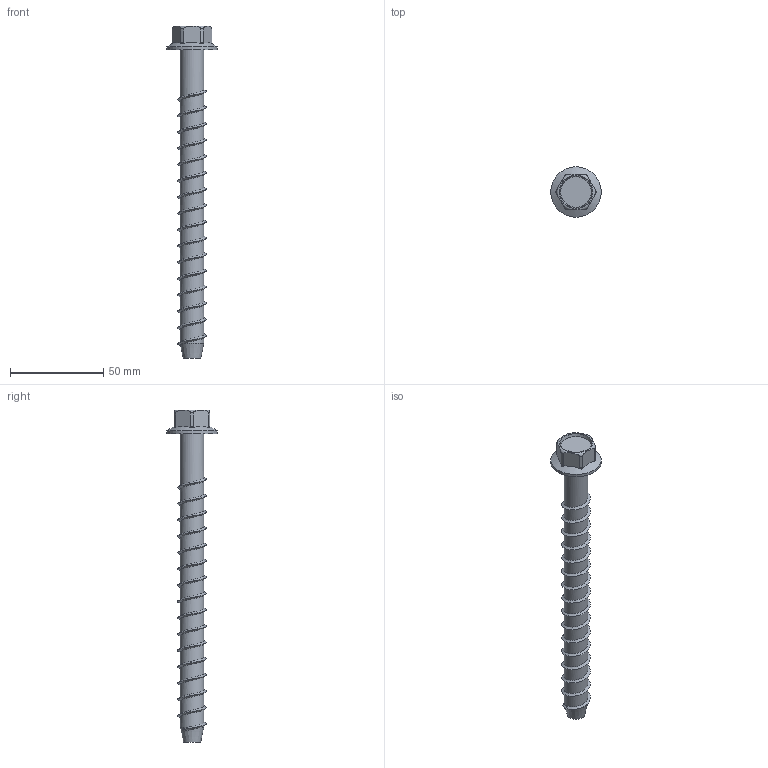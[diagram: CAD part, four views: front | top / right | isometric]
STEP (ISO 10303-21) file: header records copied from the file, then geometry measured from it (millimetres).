
FILE_DESCRIPTION(/* description */ (''),/* implementation_level */ '2;1');
FILE_NAME(/* name */ 'C:\001_Work\Designs\SAST\SAST-0.500 x 6.500.stp',/* time_stamp */ '2015-10-10T17:43:50-04:00',/* author */ ('rramoutar'),/* organization */ ('Mason Industries Inc.'),/* preprocessor_version */ 'ST-DEVELOPER v15.6',/* originating_system */ 'Autodesk Inventor 2015',/* authorisation */ '');
FILE_SCHEMA (('AUTOMOTIVE_DESIGN { 1 0 10303 214 3 1 1 }'));
Length unit declared in the file: inch
Products named in the file (1): SAST-0.500 x 6.500
Bounding box: 26.99 x 26.99 x 177.8 mm (x, y, z)
Volume: 25683 mm3; surface area: 9697.2 mm2
Topology: 1 solids, 1 shells, 54 faces, 139 edges, 87 vertices
Faces by surface type: cylinder 25, plane 10, bspline 9, torus 7, cone 3
Full cylindrical faces by diameter (mm): 12.7 x16, 26.987 x1
Entity records: 3932 total; most frequent: CARTESIAN_POINT 3138, ORIENTED_EDGE 170, DIRECTION 136, EDGE_CURVE 85, AXIS2_PLACEMENT_3D 58, VERTEX_POINT 55, EDGE_LOOP 46, FACE_OUTER_BOUND 38
